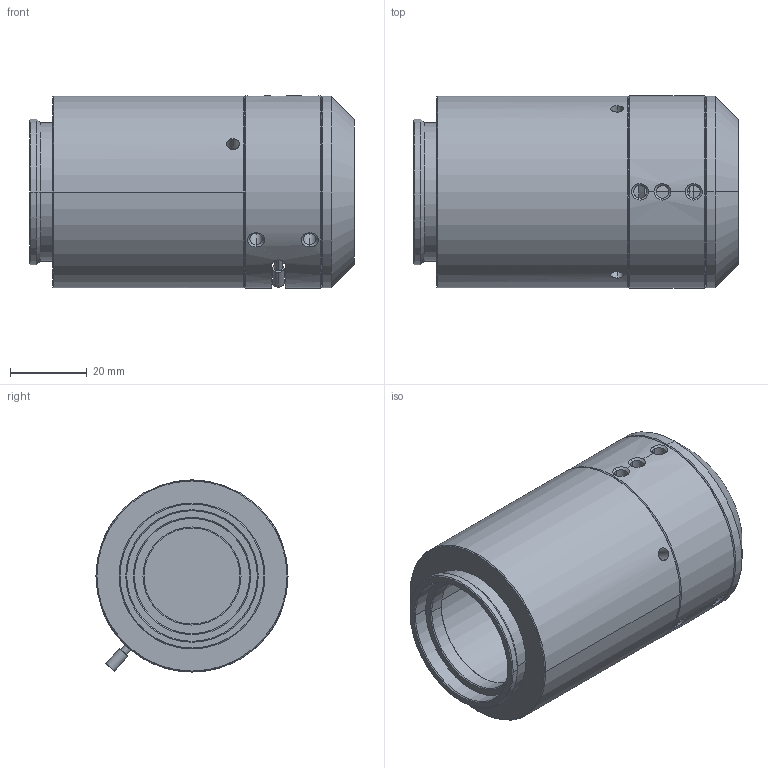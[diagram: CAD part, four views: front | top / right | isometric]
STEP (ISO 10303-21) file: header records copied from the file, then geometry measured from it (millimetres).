
FILE_DESCRIPTION (( 'STEP AP214' ), '1' );
FILE_NAME ('TXCOND-60-K (CATALOG MODEL).STEP', '2026-02-12T19:33:47', ( '' ), ( '' ), 'SwSTEP 2.0', 'SolidWorks 2025', '' );
FILE_SCHEMA (( 'AUTOMOTIVE_DESIGN' ));
Length unit declared in the file: inch
Products named in the file (1): TXCOND-60-K (CATALOG MODEL)
Bounding box: 84.63 x 50.01 x 50.01 mm (x, y, z)
Volume: 95158.4 mm3; surface area: 40424.6 mm2
Topology: 9 solids, 9 shells, 254 faces, 597 edges, 374 vertices
Faces by surface type: cylinder 112, plane 74, cone 60, bspline 8
Entity records: 8981 total; most frequent: CARTESIAN_POINT 2666, DIRECTION 1335, ORIENTED_EDGE 1194, EDGE_CURVE 597, AXIS2_PLACEMENT_3D 567, VERTEX_POINT 374, CIRCLE 320, EDGE_LOOP 305
